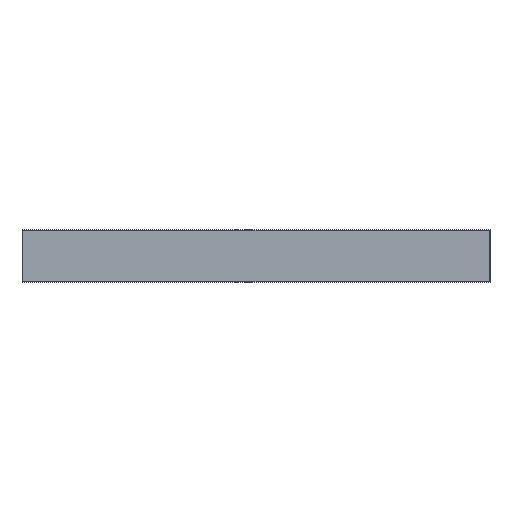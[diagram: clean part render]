
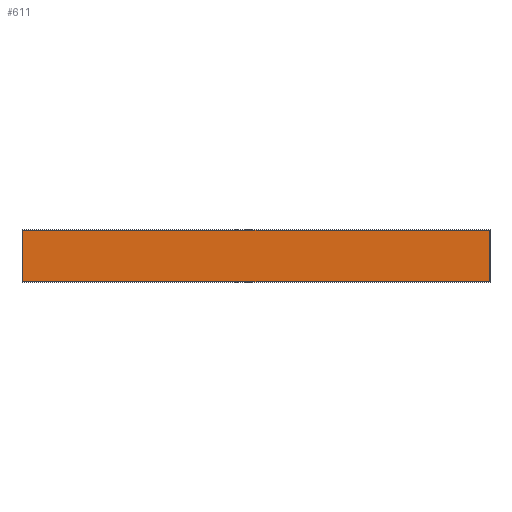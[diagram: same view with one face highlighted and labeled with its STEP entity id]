
A CAD part, top view. The second image highlights one B-rep face of the part: STEP entity #611.
In plain terms, the highlighted planar face has unit normal (0, 0, 1).
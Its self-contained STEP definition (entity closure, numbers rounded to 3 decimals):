
#361=DIRECTION('',(-1.,0.,0.));
#362=VECTOR('',#361,537.);
#363=CARTESIAN_POINT('',(268.5,29.5,3.));
#364=LINE('',#363,#362);
#368=DIRECTION('',(0.,1.,0.));
#369=VECTOR('',#368,59.);
#370=CARTESIAN_POINT('',(268.5,-29.5,3.));
#371=LINE('',#370,#369);
#375=DIRECTION('',(1.,0.,0.));
#376=VECTOR('',#375,537.);
#377=CARTESIAN_POINT('',(-268.5,-29.5,3.));
#378=LINE('',#377,#376);
#382=DIRECTION('',(0.,-1.,0.));
#383=VECTOR('',#382,59.);
#384=CARTESIAN_POINT('',(-268.5,29.5,3.));
#385=LINE('',#384,#383);
#400=CARTESIAN_POINT('',(268.5,29.5,3.));
#401=CARTESIAN_POINT('',(-268.5,29.5,3.));
#402=VERTEX_POINT('',#400);
#403=VERTEX_POINT('',#401);
#424=CARTESIAN_POINT('',(-268.5,-29.5,3.));
#425=CARTESIAN_POINT('',(268.5,-29.5,3.));
#426=VERTEX_POINT('',#424);
#427=VERTEX_POINT('',#425);
#599=CARTESIAN_POINT('',(0.,0.,3.));
#600=DIRECTION('',(0.,0.,1.));
#601=DIRECTION('',(1.,0.,0.));
#602=AXIS2_PLACEMENT_3D('',#599,#600,#601);
#603=PLANE('',#602);
#604=ORIENTED_EDGE('',*,*,#482,.F.);
#605=ORIENTED_EDGE('',*,*,#498,.F.);
#607=ORIENTED_EDGE('',*,*,#606,.F.);
#608=ORIENTED_EDGE('',*,*,#592,.F.);
#609=EDGE_LOOP('',(#604,#605,#607,#608));
#610=FACE_OUTER_BOUND('',#609,.F.);
#482=EDGE_CURVE('',#402,#403,#364,.T.);
#498=EDGE_CURVE('',#427,#402,#371,.T.);
#592=EDGE_CURVE('',#403,#426,#385,.T.);
#606=EDGE_CURVE('',#426,#427,#378,.T.);
#611=ADVANCED_FACE('',(#610),#603,.T.);
